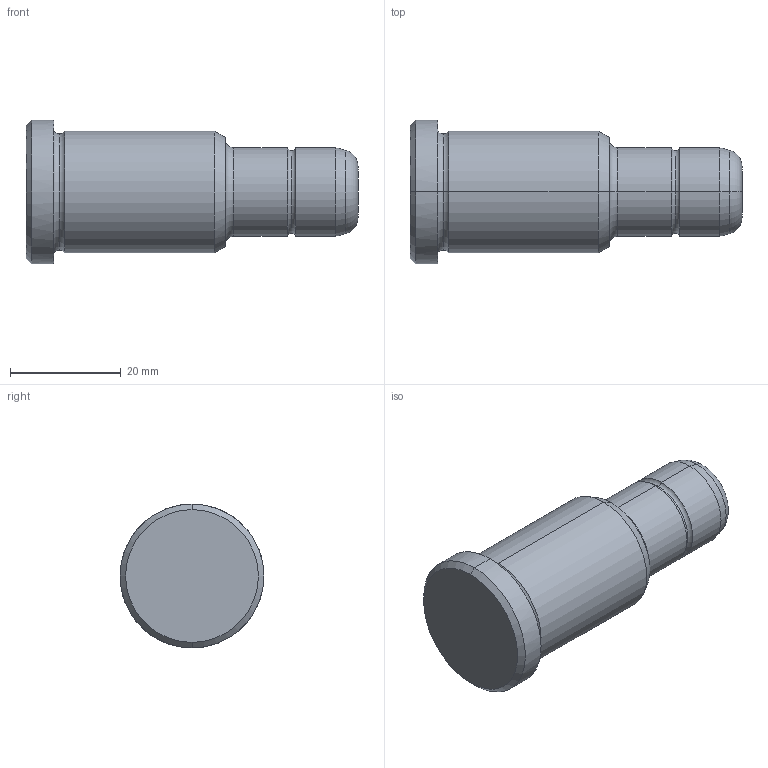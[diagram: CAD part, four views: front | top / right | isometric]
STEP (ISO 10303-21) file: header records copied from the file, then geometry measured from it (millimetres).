
FILE_DESCRIPTION(('CATIA V5 STEP Exchange'),'2;1');
FILE_NAME('C:\Users\Utente\Desktop\IO LAVORO\3D X SITO CF\X SITO\PLASTICA\351\351-16X36X60.stp','2021-08-18T11:40:06+00:00',('none'),('none'),'CATIA Version 5 Release 20 GA (IN-10)','CATIA V5 STEP AP203','none');
FILE_SCHEMA(('CONFIG_CONTROL_DESIGN'));
Length unit declared in the file: millimetre
Products named in the file (1): 351-16X36X60
Bounding box: 60 x 26 x 26 mm (x, y, z)
Volume: 18952.7 mm3; surface area: 4622.4 mm2
Topology: 1 solids, 1 shells, 30 faces, 86 edges, 60 vertices
Faces by surface type: torus 12, cylinder 8, cone 6, plane 4
Entity records: 1112 total; most frequent: CARTESIAN_POINT 289, ORIENTED_EDGE 172, DIRECTION 138, AXIS2_PLACEMENT_3D 95, EDGE_CURVE 86, CIRCLE 64, VERTEX_POINT 60, EDGE_LOOP 32
